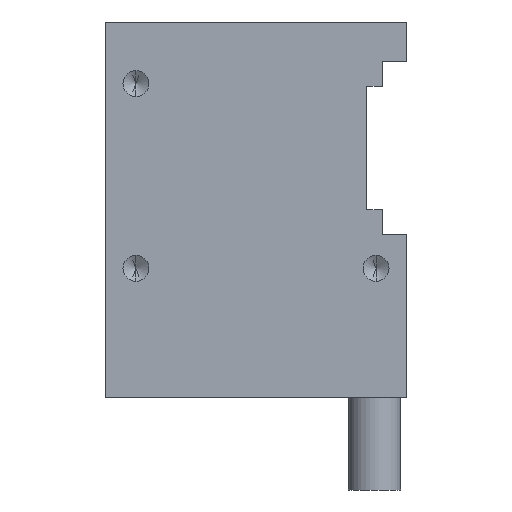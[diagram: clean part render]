
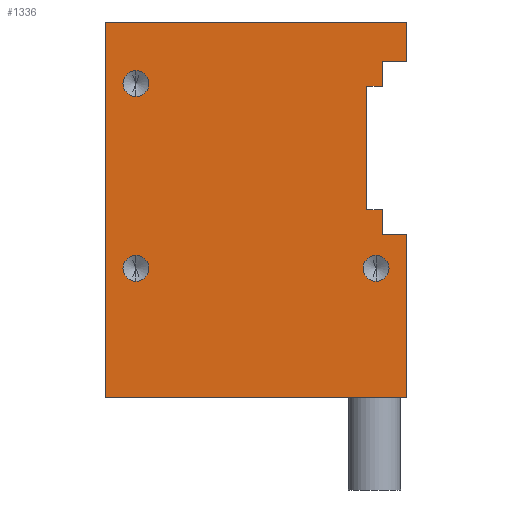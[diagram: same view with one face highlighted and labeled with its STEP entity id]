
A CAD part, front view. The second image highlights one B-rep face of the part: STEP entity #1336.
In plain terms, the highlighted planar face has unit normal (0, -1, 0).
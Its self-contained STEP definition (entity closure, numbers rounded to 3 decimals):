
#29 = CARTESIAN_POINT ( 'NONE',  ( 18., 0., 0.05 ) ) ;
#39 = LINE ( 'NONE', #248, #1403 ) ;
#47 = LINE ( 'NONE', #1319, #842 ) ;
#49 = AXIS2_PLACEMENT_3D ( 'NONE', #2041, #2237, #494 ) ;
#59 = CARTESIAN_POINT ( 'NONE',  ( 24.5, 0., 30.5 ) ) ;
#67 = LINE ( 'NONE', #1406, #2066 ) ;
#129 = EDGE_CURVE ( 'NONE', #2327, #1299, #1204, .T. ) ;
#142 = EDGE_LOOP ( 'NONE', ( #1660, #2401 ) ) ;
#225 = CIRCLE ( 'NONE', #2047, 2.1 ) ;
#245 = FACE_BOUND ( 'NONE', #142, .T. ) ;
#248 = CARTESIAN_POINT ( 'NONE',  ( 20.5, 0., 24.1 ) ) ;
#250 = CIRCLE ( 'NONE', #871, 2.1 ) ;
#256 = VERTEX_POINT ( 'NONE', #307 ) ;
#260 = VERTEX_POINT ( 'NONE', #349 ) ;
#287 = EDGE_CURVE ( 'NONE', #2343, #1812, #835, .T. ) ;
#288 = DIRECTION ( 'NONE',  ( 0., 0., -1. ) ) ;
#307 = CARTESIAN_POINT ( 'NONE',  ( 20.5, 0., 20.05 ) ) ;
#315 = EDGE_LOOP ( 'NONE', ( #1995, #997 ) ) ;
#338 = LINE ( 'NONE', #1188, #2289 ) ;
#349 = CARTESIAN_POINT ( 'NONE',  ( 20.5, 0., 24.1 ) ) ;
#353 = EDGE_CURVE ( 'NONE', #1603, #2458, #47, .T. ) ;
#357 = CARTESIAN_POINT ( 'NONE',  ( -3.786, 0., 0.05 ) ) ;
#394 = CARTESIAN_POINT ( 'NONE',  ( 20.5, 0., 24.1 ) ) ;
#417 = EDGE_CURVE ( 'NONE', #540, #2458, #1806, .T. ) ;
#451 = DIRECTION ( 'NONE',  ( 0., -1., 0. ) ) ;
#477 = EDGE_LOOP ( 'NONE', ( #1899, #2360 ) ) ;
#494 = DIRECTION ( 'NONE',  ( 0., 0., 1. ) ) ;
#504 = EDGE_CURVE ( 'NONE', #2343, #1076, #654, .T. ) ;
#507 = AXIS2_PLACEMENT_3D ( 'NONE', #849, #1633, #2209 ) ;
#532 = CIRCLE ( 'NONE', #507, 2.1 ) ;
#540 = VERTEX_POINT ( 'NONE', #1394 ) ;
#582 = DIRECTION ( 'NONE',  ( 1., 0., 0. ) ) ;
#605 = DIRECTION ( 'NONE',  ( 0., 0., -1. ) ) ;
#614 = DIRECTION ( 'NONE',  ( 0., -1., 0. ) ) ;
#634 = EDGE_CURVE ( 'NONE', #2218, #1421, #532, .T. ) ;
#654 = LINE ( 'NONE', #357, #693 ) ;
#664 = ORIENTED_EDGE ( 'NONE', *, *, #417, .F. ) ;
#684 = VECTOR ( 'NONE', #2006, 1000. ) ;
#688 = CARTESIAN_POINT ( 'NONE',  ( -3.786, 0., 20.05 ) ) ;
#693 = VECTOR ( 'NONE', #762, 1000. ) ;
#722 = VECTOR ( 'NONE', #582, 1000. ) ;
#726 = VERTEX_POINT ( 'NONE', #1809 ) ;
#741 = AXIS2_PLACEMENT_3D ( 'NONE', #1989, #451, #1787 ) ;
#762 = DIRECTION ( 'NONE',  ( 1., 0., 0. ) ) ;
#783 = ORIENTED_EDGE ( 'NONE', *, *, #1200, .T. ) ;
#793 = CARTESIAN_POINT ( 'NONE',  ( 20.5, 0., -4. ) ) ;
#810 = CARTESIAN_POINT ( 'NONE',  ( 20.5, 0., 0.05 ) ) ;
#816 = DIRECTION ( 'NONE',  ( 0., 0., -1. ) ) ;
#835 = LINE ( 'NONE', #1703, #2408 ) ;
#837 = EDGE_CURVE ( 'NONE', #1147, #1603, #1167, .T. ) ;
#842 = VECTOR ( 'NONE', #1166, 1000. ) ;
#849 = CARTESIAN_POINT ( 'NONE',  ( 19.5, 0., -9.5 ) ) ;
#855 = CARTESIAN_POINT ( 'NONE',  ( 24.5, 0., 24.1 ) ) ;
#864 = DIRECTION ( 'NONE',  ( 0., -1., 0. ) ) ;
#871 = AXIS2_PLACEMENT_3D ( 'NONE', #1461, #2416, #288 ) ;
#887 = ORIENTED_EDGE ( 'NONE', *, *, #353, .T. ) ;
#904 = ORIENTED_EDGE ( 'NONE', *, *, #1096, .F. ) ;
#909 = DIRECTION ( 'NONE',  ( 0., 0., 1. ) ) ;
#943 = ORIENTED_EDGE ( 'NONE', *, *, #129, .F. ) ;
#945 = EDGE_CURVE ( 'NONE', #1147, #2327, #338, .T. ) ;
#951 = FACE_BOUND ( 'NONE', #477, .T. ) ;
#952 = ORIENTED_EDGE ( 'NONE', *, *, #287, .T. ) ;
#971 = DIRECTION ( 'NONE',  ( 0., 0., -1. ) ) ;
#973 = DIRECTION ( 'NONE',  ( 1., 0., 0. ) ) ;
#984 = DIRECTION ( 'NONE',  ( 0., -1., 0. ) ) ;
#997 = ORIENTED_EDGE ( 'NONE', *, *, #1192, .F. ) ;
#1061 = ORIENTED_EDGE ( 'NONE', *, *, #504, .F. ) ;
#1076 = VERTEX_POINT ( 'NONE', #810 ) ;
#1079 = LINE ( 'NONE', #688, #1569 ) ;
#1096 = EDGE_CURVE ( 'NONE', #260, #256, #67, .T. ) ;
#1109 = DIRECTION ( 'NONE',  ( 1., 0., 0. ) ) ;
#1147 = VERTEX_POINT ( 'NONE', #1773 ) ;
#1157 = CARTESIAN_POINT ( 'NONE',  ( 24.5, 0., 30.5 ) ) ;
#1166 = DIRECTION ( 'NONE',  ( 1., 0., 0. ) ) ;
#1167 = LINE ( 'NONE', #1700, #1376 ) ;
#1188 = CARTESIAN_POINT ( 'NONE',  ( -24.5, 0., 30.5 ) ) ;
#1192 = EDGE_CURVE ( 'NONE', #1421, #2218, #1797, .T. ) ;
#1200 = EDGE_CURVE ( 'NONE', #260, #1299, #39, .T. ) ;
#1203 = DIRECTION ( 'NONE',  ( 0., 0., -1. ) ) ;
#1204 = LINE ( 'NONE', #59, #684 ) ;
#1235 = VECTOR ( 'NONE', #1203, 1000. ) ;
#1237 = DIRECTION ( 'NONE',  ( 0., 0., -1. ) ) ;
#1243 = CARTESIAN_POINT ( 'NONE',  ( -19.5, 0., 22.6 ) ) ;
#1299 = VERTEX_POINT ( 'NONE', #855 ) ;
#1300 = CARTESIAN_POINT ( 'NONE',  ( 19.5, 0., -7.4 ) ) ;
#1304 = ORIENTED_EDGE ( 'NONE', *, *, #945, .F. ) ;
#1319 = CARTESIAN_POINT ( 'NONE',  ( -24.5, 0., -30.5 ) ) ;
#1321 = CIRCLE ( 'NONE', #741, 2.1 ) ;
#1336 = ADVANCED_FACE ( 'NONE', ( #951, #245, #2437, #1914 ), #2062, .F. ) ;
#1339 = DIRECTION ( 'NONE',  ( 0., 0., -1. ) ) ;
#1351 = LINE ( 'NONE', #793, #722 ) ;
#1355 = ORIENTED_EDGE ( 'NONE', *, *, #1901, .T. ) ;
#1366 = ORIENTED_EDGE ( 'NONE', *, *, #2370, .F. ) ;
#1376 = VECTOR ( 'NONE', #1339, 1000. ) ;
#1394 = CARTESIAN_POINT ( 'NONE',  ( 24.5, 0., -4. ) ) ;
#1403 = VECTOR ( 'NONE', #1629, 1000. ) ;
#1405 = CARTESIAN_POINT ( 'NONE',  ( 24.5, 0., -30.5 ) ) ;
#1406 = CARTESIAN_POINT ( 'NONE',  ( 20.5, 0., 24.1 ) ) ;
#1416 = VERTEX_POINT ( 'NONE', #1482 ) ;
#1421 = VERTEX_POINT ( 'NONE', #1300 ) ;
#1445 = CARTESIAN_POINT ( 'NONE',  ( 19.5, 0., -9.5 ) ) ;
#1461 = CARTESIAN_POINT ( 'NONE',  ( -19.5, 0., -9.5 ) ) ;
#1482 = CARTESIAN_POINT ( 'NONE',  ( -19.5, 0., 18.4 ) ) ;
#1551 = EDGE_CURVE ( 'NONE', #1416, #1842, #225, .T. ) ;
#1569 = VECTOR ( 'NONE', #1109, 1000. ) ;
#1584 = CARTESIAN_POINT ( 'NONE',  ( -19.5, 0., 20.5 ) ) ;
#1597 = LINE ( 'NONE', #394, #1235 ) ;
#1603 = VERTEX_POINT ( 'NONE', #2136 ) ;
#1629 = DIRECTION ( 'NONE',  ( 1., 0., 0. ) ) ;
#1633 = DIRECTION ( 'NONE',  ( 0., -1., 0. ) ) ;
#1660 = ORIENTED_EDGE ( 'NONE', *, *, #1760, .F. ) ;
#1700 = CARTESIAN_POINT ( 'NONE',  ( -24.5, 0., 30.5 ) ) ;
#1703 = CARTESIAN_POINT ( 'NONE',  ( 18., 0., 0.05 ) ) ;
#1760 = EDGE_CURVE ( 'NONE', #2210, #726, #1321, .T. ) ;
#1770 = EDGE_CURVE ( 'NONE', #1842, #1416, #1984, .T. ) ;
#1773 = CARTESIAN_POINT ( 'NONE',  ( -24.5, 0., 30.5 ) ) ;
#1786 = ORIENTED_EDGE ( 'NONE', *, *, #2152, .F. ) ;
#1787 = DIRECTION ( 'NONE',  ( 0., 0., -1. ) ) ;
#1797 = CIRCLE ( 'NONE', #2528, 2.1 ) ;
#1806 = LINE ( 'NONE', #1157, #2263 ) ;
#1809 = CARTESIAN_POINT ( 'NONE',  ( -19.5, 0., -7.4 ) ) ;
#1812 = VERTEX_POINT ( 'NONE', #2003 ) ;
#1842 = VERTEX_POINT ( 'NONE', #1243 ) ;
#1869 = EDGE_CURVE ( 'NONE', #726, #2210, #250, .T. ) ;
#1899 = ORIENTED_EDGE ( 'NONE', *, *, #1551, .F. ) ;
#1901 = EDGE_CURVE ( 'NONE', #1812, #256, #1079, .T. ) ;
#1914 = FACE_OUTER_BOUND ( 'NONE', #1936, .T. ) ;
#1918 = CARTESIAN_POINT ( 'NONE',  ( 20.5, 0., -4. ) ) ;
#1936 = EDGE_LOOP ( 'NONE', ( #952, #1355, #904, #783, #943, #1304, #2332, #887, #664, #1786, #1366, #1061 ) ) ;
#1945 = CARTESIAN_POINT ( 'NONE',  ( 24.5, 0., 30.5 ) ) ;
#1984 = CIRCLE ( 'NONE', #2342, 2.1 ) ;
#1989 = CARTESIAN_POINT ( 'NONE',  ( -19.5, 0., -9.5 ) ) ;
#1995 = ORIENTED_EDGE ( 'NONE', *, *, #634, .F. ) ;
#1996 = CARTESIAN_POINT ( 'NONE',  ( -19.5, 0., 20.5 ) ) ;
#2003 = CARTESIAN_POINT ( 'NONE',  ( 18., 0., 20.05 ) ) ;
#2006 = DIRECTION ( 'NONE',  ( 0., 0., -1. ) ) ;
#2041 = CARTESIAN_POINT ( 'NONE',  ( -24.5, 0., 30.5 ) ) ;
#2047 = AXIS2_PLACEMENT_3D ( 'NONE', #1584, #984, #971 ) ;
#2062 = PLANE ( 'NONE',  #49 ) ;
#2066 = VECTOR ( 'NONE', #605, 1000. ) ;
#2117 = DIRECTION ( 'NONE',  ( 0., 0., -1. ) ) ;
#2120 = CARTESIAN_POINT ( 'NONE',  ( -19.5, 0., -11.6 ) ) ;
#2136 = CARTESIAN_POINT ( 'NONE',  ( -24.5, 0., -30.5 ) ) ;
#2152 = EDGE_CURVE ( 'NONE', #2231, #540, #1351, .T. ) ;
#2209 = DIRECTION ( 'NONE',  ( 0., 0., -1. ) ) ;
#2210 = VERTEX_POINT ( 'NONE', #2120 ) ;
#2218 = VERTEX_POINT ( 'NONE', #2322 ) ;
#2231 = VERTEX_POINT ( 'NONE', #1918 ) ;
#2237 = DIRECTION ( 'NONE',  ( 0., 1., 0. ) ) ;
#2263 = VECTOR ( 'NONE', #2117, 1000. ) ;
#2289 = VECTOR ( 'NONE', #973, 1000. ) ;
#2322 = CARTESIAN_POINT ( 'NONE',  ( 19.5, 0., -11.6 ) ) ;
#2327 = VERTEX_POINT ( 'NONE', #1945 ) ;
#2332 = ORIENTED_EDGE ( 'NONE', *, *, #837, .T. ) ;
#2342 = AXIS2_PLACEMENT_3D ( 'NONE', #1996, #614, #816 ) ;
#2343 = VERTEX_POINT ( 'NONE', #29 ) ;
#2360 = ORIENTED_EDGE ( 'NONE', *, *, #1770, .F. ) ;
#2370 = EDGE_CURVE ( 'NONE', #1076, #2231, #1597, .T. ) ;
#2401 = ORIENTED_EDGE ( 'NONE', *, *, #1869, .F. ) ;
#2408 = VECTOR ( 'NONE', #909, 1000. ) ;
#2416 = DIRECTION ( 'NONE',  ( 0., -1., 0. ) ) ;
#2437 = FACE_BOUND ( 'NONE', #315, .T. ) ;
#2458 = VERTEX_POINT ( 'NONE', #1405 ) ;
#2528 = AXIS2_PLACEMENT_3D ( 'NONE', #1445, #864, #1237 ) ;
